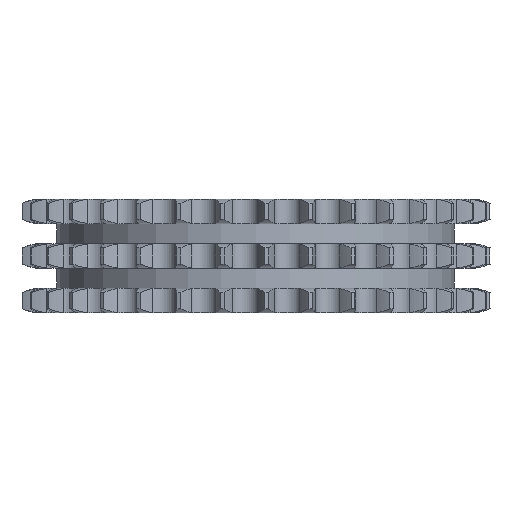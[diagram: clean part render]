
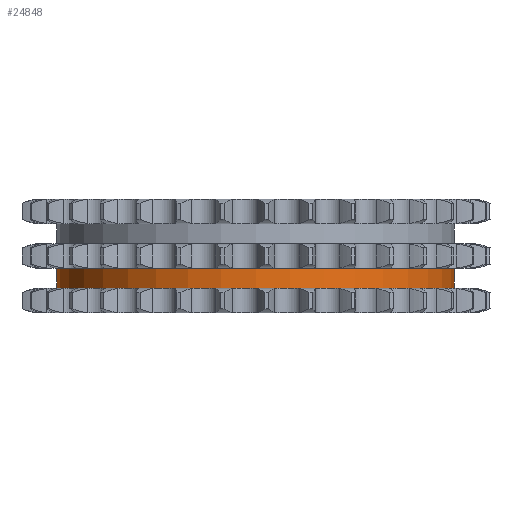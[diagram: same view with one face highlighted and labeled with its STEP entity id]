
A CAD part, left-side view. The second image highlights one B-rep face of the part: STEP entity #24848.
In plain terms, the highlighted cylindrical face has radius 73.503 mm (diameter 147.007 mm), a partial arc.
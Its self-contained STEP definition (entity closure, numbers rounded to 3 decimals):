
#5885=DIRECTION('',(0.,0.,-1.));
#5886=VECTOR('',#5885,7.4);
#5887=CARTESIAN_POINT('',(0.,73.503,-4.55));
#5888=LINE('',#5887,#5886);
#5892=CARTESIAN_POINT('',(0.,0.,-4.55));
#5893=DIRECTION('',(0.,0.,1.));
#5894=DIRECTION('',(0.,1.,0.));
#5895=AXIS2_PLACEMENT_3D('',#5892,#5893,#5894);
#5900=DIRECTION('',(0.,0.,-1.));
#5901=VECTOR('',#5900,7.4);
#5902=CARTESIAN_POINT('',(0.,-73.503,-4.55));
#5903=LINE('',#5902,#5901);
#5907=CARTESIAN_POINT('',(0.,0.,-11.95));
#5908=DIRECTION('',(0.,0.,1.));
#5909=DIRECTION('',(0.,1.,0.));
#5910=AXIS2_PLACEMENT_3D('',#5907,#5908,#5909);
#19087=CARTESIAN_POINT('',(0.,73.503,-4.55));
#19088=CARTESIAN_POINT('',(0.,73.503,-11.95));
#19089=VERTEX_POINT('',#19087);
#19090=VERTEX_POINT('',#19088);
#19091=CARTESIAN_POINT('',(0.,-73.503,-4.55));
#19092=CARTESIAN_POINT('',(0.,-73.503,-11.95));
#19093=VERTEX_POINT('',#19091);
#19094=VERTEX_POINT('',#19092);
#24836=CARTESIAN_POINT('',(0.,0.,13.145));
#24837=DIRECTION('',(0.,0.,-1.));
#24838=DIRECTION('',(0.,-1.,0.));
#24839=AXIS2_PLACEMENT_3D('',#24836,#24837,#24838);
#24840=CYLINDRICAL_SURFACE('',#24839,73.503);
#24841=ORIENTED_EDGE('',*,*,#24826,.F.);
#24842=ORIENTED_EDGE('',*,*,#24816,.T.);
#24843=ORIENTED_EDGE('',*,*,#24830,.T.);
#24845=ORIENTED_EDGE('',*,*,#24844,.F.);
#24846=EDGE_LOOP('',(#24841,#24842,#24843,#24845));
#24847=FACE_OUTER_BOUND('',#24846,.F.);
#24848=ADVANCED_FACE('',(#24847),#24840,.T.);
#5896=CIRCLE('',#5895,73.503);
#5911=CIRCLE('',#5910,73.503);
#24816=EDGE_CURVE('',#19089,#19093,#5896,.T.);
#24826=EDGE_CURVE('',#19089,#19090,#5888,.T.);
#24830=EDGE_CURVE('',#19093,#19094,#5903,.T.);
#24844=EDGE_CURVE('',#19090,#19094,#5911,.T.);
